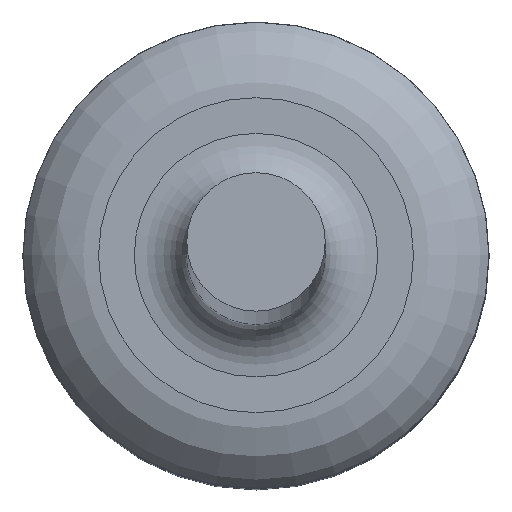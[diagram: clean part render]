
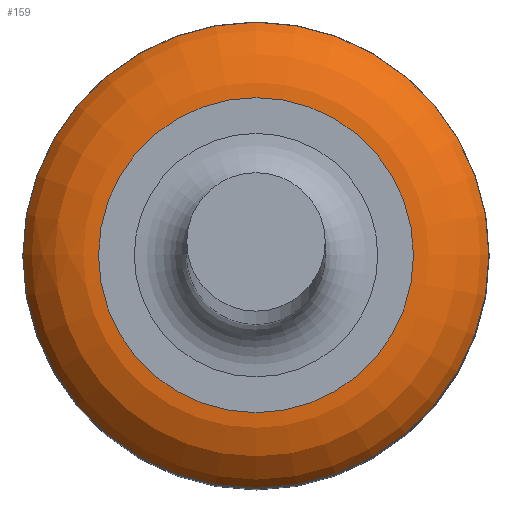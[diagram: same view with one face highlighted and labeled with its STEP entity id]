
A CAD part, top view. The second image highlights one B-rep face of the part: STEP entity #159.
In plain terms, the highlighted toroidal (fillet/blend) face has major radius 0.54 mm and minor radius 0.3 mm.
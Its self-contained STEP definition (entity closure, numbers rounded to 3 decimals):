
#28=FACE_BOUND('',#60,.T.);
#43=FACE_OUTER_BOUND('',#59,.T.);
#59=EDGE_LOOP('',(#124));
#60=EDGE_LOOP('',(#125));
#81=CIRCLE('',#183,0.8);
#82=CIRCLE('',#184,0.54);
#94=VERTEX_POINT('',#273);
#95=VERTEX_POINT('',#275);
#107=EDGE_CURVE('',#94,#94,#81,.T.);
#108=EDGE_CURVE('',#95,#95,#82,.T.);
#124=ORIENTED_EDGE('',*,*,#107,.T.);
#125=ORIENTED_EDGE('',*,*,#108,.T.);
#142=TOROIDAL_SURFACE('',#182,0.54,0.3);
#159=ADVANCED_FACE('',(#43,#28),#142,.T.);
#182=AXIS2_PLACEMENT_3D('',#272,#222,#223);
#183=AXIS2_PLACEMENT_3D('',#274,#224,#225);
#184=AXIS2_PLACEMENT_3D('',#276,#226,#227);
#222=DIRECTION('center_axis',(0.,0.,1.));
#223=DIRECTION('ref_axis',(1.,0.,0.));
#224=DIRECTION('center_axis',(0.,0.,1.));
#225=DIRECTION('ref_axis',(-1.,0.,0.));
#226=DIRECTION('center_axis',(0.,0.,-1.));
#227=DIRECTION('ref_axis',(1.,0.,0.));
#272=CARTESIAN_POINT('Origin',(0.,0.,3.2));
#273=CARTESIAN_POINT('',(-0.8,0.,3.35));
#274=CARTESIAN_POINT('Origin',(0.,0.,3.35));
#275=CARTESIAN_POINT('',(-0.54,0.,3.5));
#276=CARTESIAN_POINT('Origin',(0.,0.,3.5));
